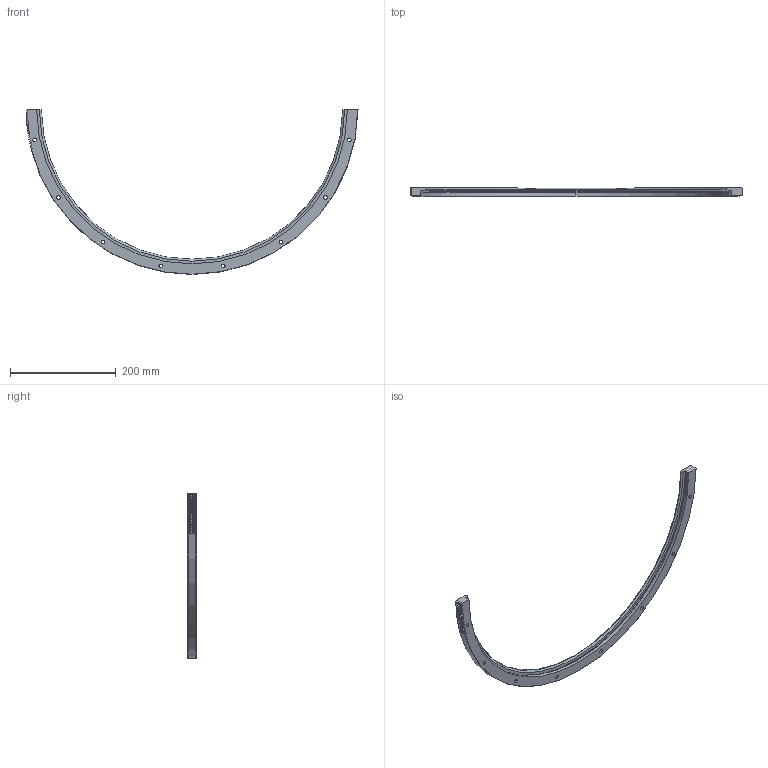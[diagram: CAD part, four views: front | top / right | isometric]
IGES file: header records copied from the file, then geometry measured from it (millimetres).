
Start section: 3D InterOp IGES (v. 2020 1.0.1), Spatial Corp. Copyright (c) 1999-2017.
Global section: file name: rim_627_r180_p.igs; native system: Spatial Corp.; preprocessor: 3D InterOp ACIS/IGES; author: TraceParts; organization: TraceParts S.A.; date: 20220624.063001; units: millimetre
Bounding box: 627.48 x 15.5 x 311.75 mm (x, y, z)
Surface area: 85027.7 mm2 (no closed solid volume)
Topology: 0 solids, 0 shells, 198 faces, 1118 edges, 1118 vertices
Faces by surface type: extrusion 110, revolution 88
